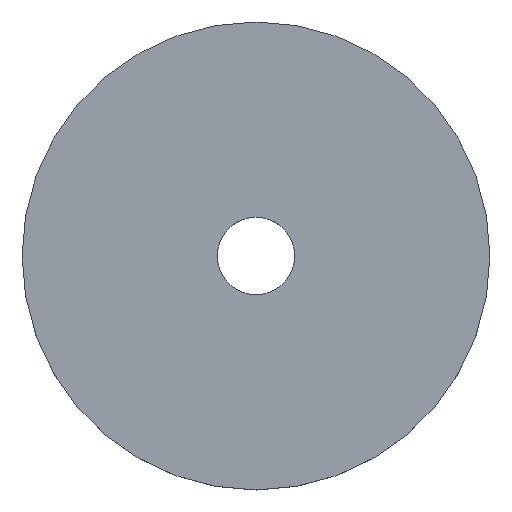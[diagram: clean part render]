
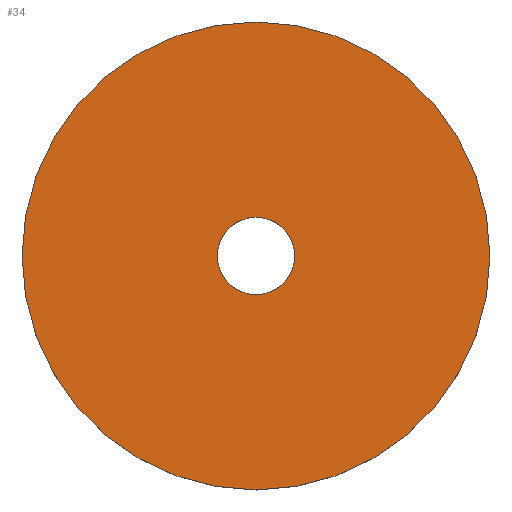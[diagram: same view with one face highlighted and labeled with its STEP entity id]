
A CAD part, top view. The second image highlights one B-rep face of the part: STEP entity #34.
In plain terms, the highlighted planar face has unit normal (0, 0, 1).
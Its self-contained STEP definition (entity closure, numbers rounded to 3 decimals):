
#34 = ADVANCED_FACE( '', ( #65, #66 ), #67, .F. );
#65 = FACE_BOUND( '', #88, .T. );
#66 = FACE_OUTER_BOUND( '', #89, .T. );
#67 = PLANE( '', #90 );
#88 = EDGE_LOOP( '', ( #111 ) );
#89 = EDGE_LOOP( '', ( #112 ) );
#90 = AXIS2_PLACEMENT_3D( '', #113, #114, #115 );
#111 = ORIENTED_EDGE( '', *, *, #120, .F. );
#112 = ORIENTED_EDGE( '', *, *, #117, .F. );
#113 = CARTESIAN_POINT( '', ( 0., 0., 3. ) );
#114 = DIRECTION( '', ( 0., 0., -1. ) );
#115 = DIRECTION( '', ( -1., 0., 0. ) );
#117 = EDGE_CURVE( '', #125, #125, #126, .T. );
#120 = EDGE_CURVE( '', #130, #130, #131, .T. );
#125 = VERTEX_POINT( '', #137 );
#126 = CIRCLE( '', #138, 12.5 );
#130 = VERTEX_POINT( '', #142 );
#131 = CIRCLE( '', #143, 2.067 );
#137 = CARTESIAN_POINT( '', ( 12.5, 0., 3. ) );
#138 = AXIS2_PLACEMENT_3D( '', #148, #149, #150 );
#142 = CARTESIAN_POINT( '', ( 2.067, 0., 3. ) );
#143 = AXIS2_PLACEMENT_3D( '', #154, #155, #156 );
#148 = CARTESIAN_POINT( '', ( 0., 0., 3. ) );
#149 = DIRECTION( '', ( 0., 0., -1. ) );
#150 = DIRECTION( '', ( 1., 0., 0. ) );
#154 = CARTESIAN_POINT( '', ( 0., 0., 3. ) );
#155 = DIRECTION( '', ( 0., 0., 1. ) );
#156 = DIRECTION( '', ( 1., 0., 0. ) );
